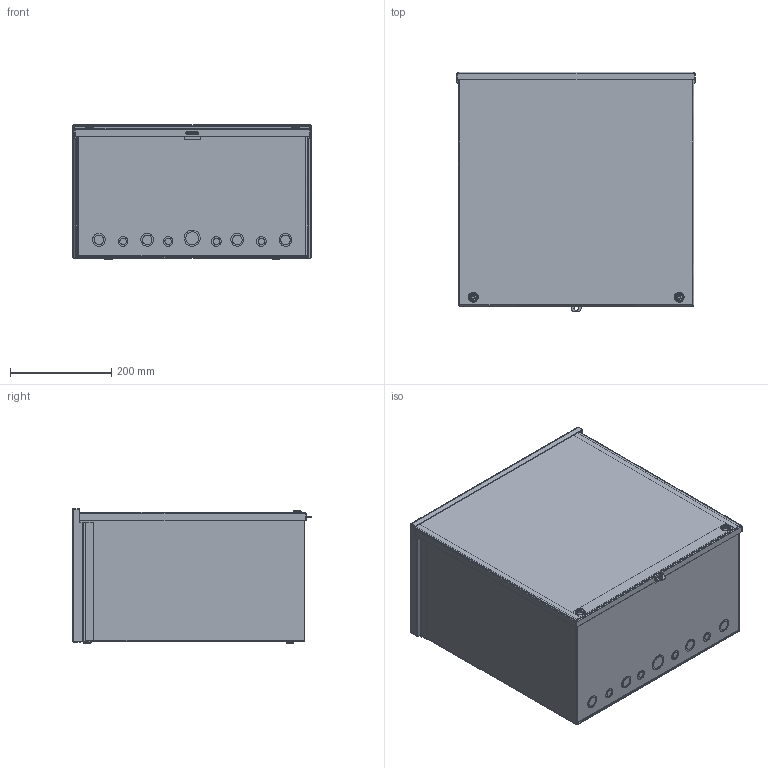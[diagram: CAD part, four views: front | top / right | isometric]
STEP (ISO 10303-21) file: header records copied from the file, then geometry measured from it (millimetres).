
FILE_DESCRIPTION((''),'2;1');
FILE_NAME('D:\scratch\ideas\a18r1810.stp','2007-02-08T12:34:35',( 'User'),('SDRC'),'I-DEAS Master Series 9','UNIX','Yes');
FILE_SCHEMA(('AUTOMOTIVE_DESIGN { 1 0 10303 214 0 1 1 1 }'));
Length unit declared in the file: inch
Products named in the file (7): 13397; 3rsc_wmt_body_18x18x10; 3rsc_top_18x10; 3rsc_bottom_18x10; 3rsc_body_18x18x10; 3rsc_cover_18x18; 78124001
Assembly tree (6 placements, depth 3):
  13397
    3rsc_wmt_body_18x18x10
      3rsc_top_18x10
      3rsc_bottom_18x10
      3rsc_body_18x18x10
    3rsc_cover_18x18
    78124001
Bounding box: 469.9 x 473.15 x 265.43 mm (x, y, z)
Volume: 1361066.2 mm3; surface area: 1959626.8 mm2
Topology: 5 solids, 5 shells, 291 faces, 697 edges, 444 vertices
Faces by surface type: bspline 291
Entity records: 9180 total; most frequent: CARTESIAN_POINT 4667, ORIENTED_EDGE 1394, EDGE_CURVE 697, VERTEX_POINT 444, EDGE_LOOP 347, QUASI_UNIFORM_CURVE 330, FACE_OUTER_BOUND 291, ADVANCED_FACE 291
